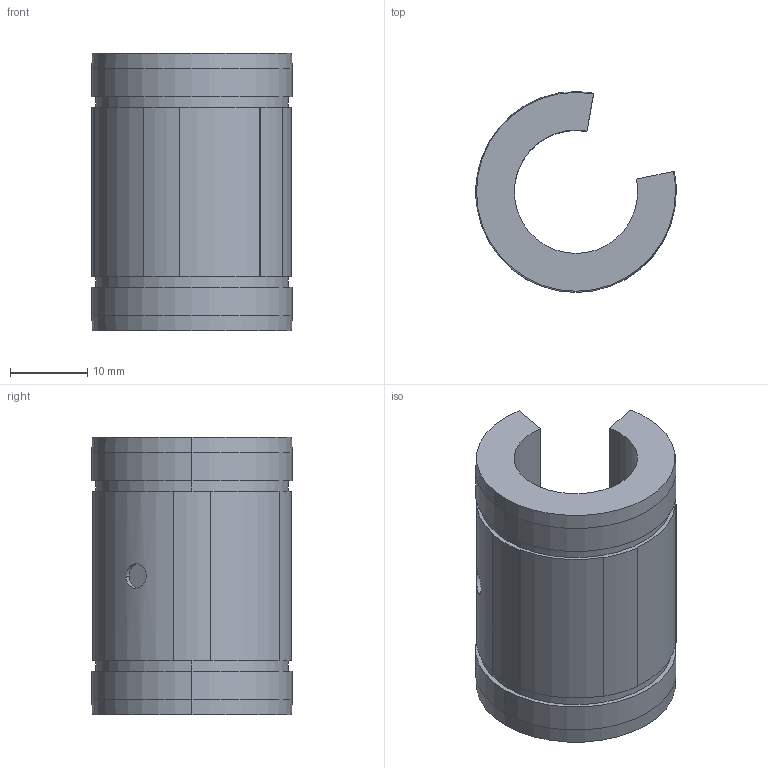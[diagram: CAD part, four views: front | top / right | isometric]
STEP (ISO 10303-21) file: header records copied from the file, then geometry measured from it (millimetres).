
FILE_DESCRIPTION((''),'2;1');
FILE_NAME('C:\Documents and Settings\ｿﾀﾀ蠑ｷ1\ｹﾙﾅﾁ ﾈｭｸ饅\ｺﾎﾇｰﾆﾄﾀﾏ\ﾁｦﾇｰ\LMES__UUOP\LMES16UUOP.stp','2005-06-15T14:07:17',('ｿﾀﾀ蠑ｷ1'),(''),'Autodesk Inventor 9','Autodesk Inventor 9','');
FILE_SCHEMA(('AUTOMOTIVE_DESIGN { 1 0 10303 214 1 1 1 1 }'));
Length unit declared in the file: millimetre
Products named in the file (1): LMES__OP
Bounding box: 26 x 26 x 36 mm (x, y, z)
Volume: 9414.6 mm3; surface area: 4866.4 mm2
Topology: 1 solids, 1 shells, 50 faces, 137 edges, 90 vertices
Faces by surface type: cylinder 27, plane 17, cone 6
Entity records: 1660 total; most frequent: CARTESIAN_POINT 312, DIRECTION 295, ORIENTED_EDGE 274, EDGE_CURVE 137, AXIS2_PLACEMENT_3D 109, VERTEX_POINT 90, VECTOR 77, LINE 77
